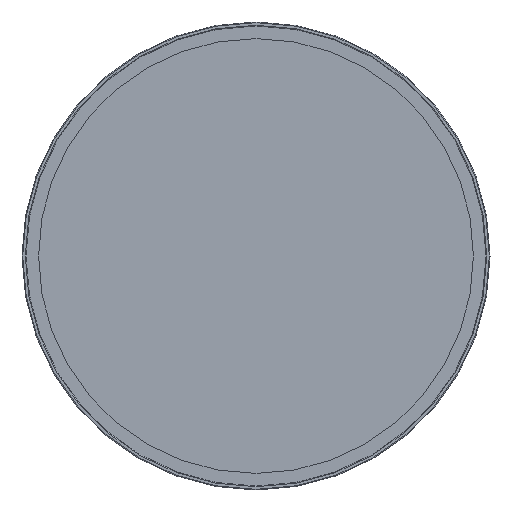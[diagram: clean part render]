
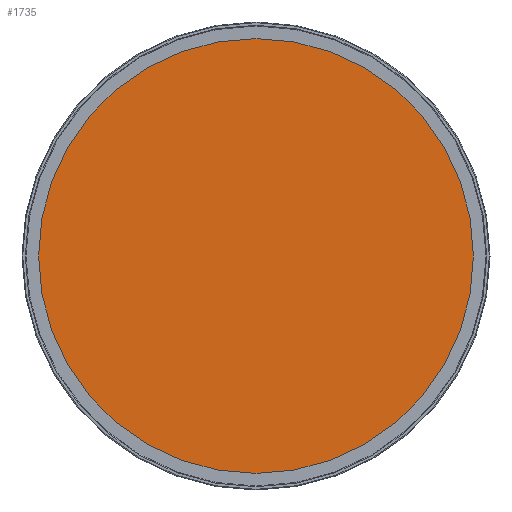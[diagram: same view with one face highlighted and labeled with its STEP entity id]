
A CAD part, front view. The second image highlights one B-rep face of the part: STEP entity #1735.
In plain terms, the highlighted planar face has unit normal (0, -1, 0).
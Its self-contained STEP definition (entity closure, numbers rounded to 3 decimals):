
#429=ORIENTED_EDGE('',*,*,#891,.F.);
#891=EDGE_CURVE('',#1129,#1129,#1295,.T.);
#1129=VERTEX_POINT('',#2652);
#1295=CIRCLE('',#1916,328.);
#1395=EDGE_LOOP('',(#429));
#1545=FACE_BOUND('',#1395,.T.);
#1674=PLANE('',#1918);
#1735=ADVANCED_FACE('',(#1545),#1674,.F.);
#1916=AXIS2_PLACEMENT_3D('',#2651,#2135,#2136);
#1918=AXIS2_PLACEMENT_3D('',#2654,#2139,#2140);
#2135=DIRECTION('',(0.,1.,0.));
#2136=DIRECTION('',(1.,0.,0.));
#2139=DIRECTION('',(0.,1.,0.));
#2140=DIRECTION('',(0.,0.,1.));
#2651=CARTESIAN_POINT('',(199.427,0.,72.079));
#2652=CARTESIAN_POINT('',(527.427,0.,72.079));
#2654=CARTESIAN_POINT('',(199.427,0.,72.079));
